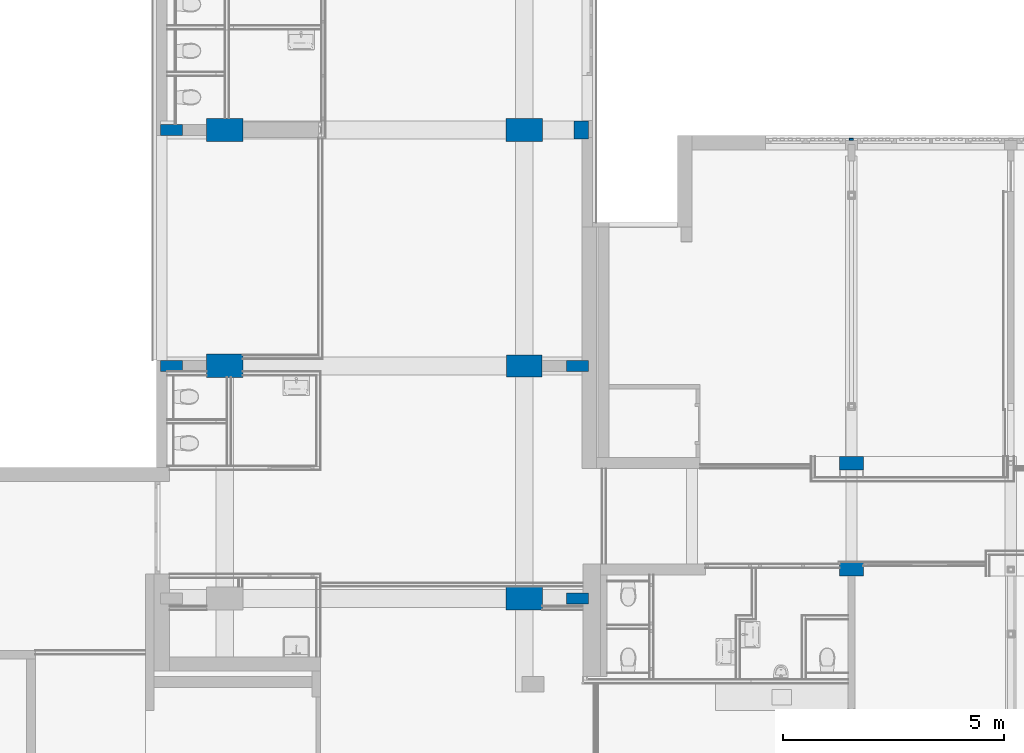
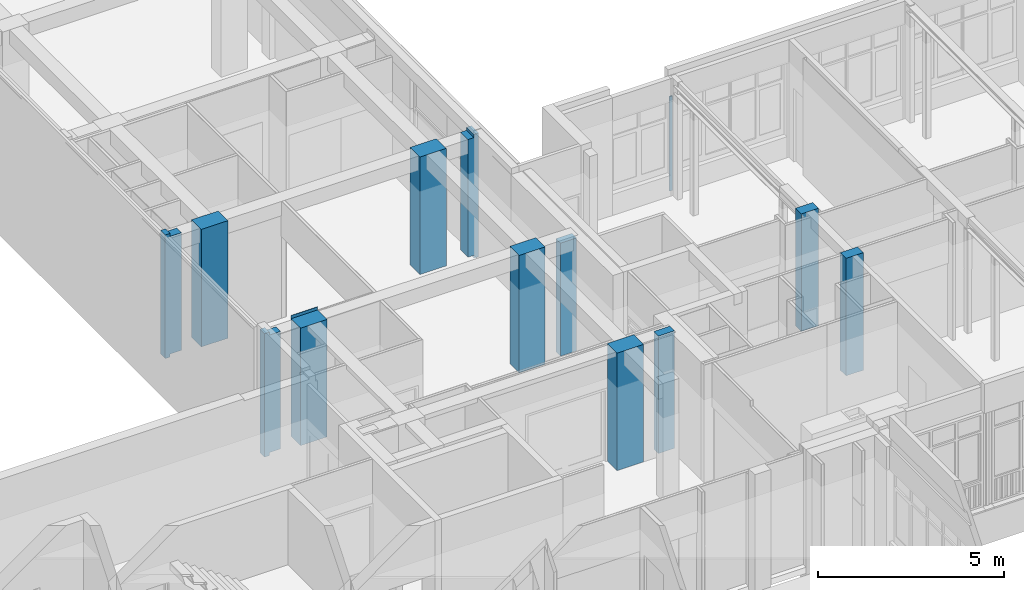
# One storey, part 50 of 135: 13 columns.
"""IFC2X3 building model written with IfcOpenShell, lengths in millimetres."""

from ifc_helpers import new_model, entity, si_unit, converted_unit, derived_unit, money_unit, direction, frame, origin_with_axes, place, context, subcontext, project, spatial, faceted_brep, material, type_object, element, save


model = new_model("IFC2X3")

# Units and contexts
model_context = context("Model", 3, precision=0.01, world=origin_with_axes(), true_north=direction((0.0, 1.0)))
body_context = subcontext(model_context, "Body", "Model", "MODEL_VIEW")
ifc_project = project(units=[si_unit("LENGTHUNIT", "METRE", prefix="MILLI"), si_unit("AREAUNIT", "SQUARE_METRE"), si_unit("VOLUMEUNIT", "CUBIC_METRE"), converted_unit("PLANEANGLEUNIT", "DEGREE", entity("IfcPlaneAngleMeasure", 0.0174532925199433), si_unit("PLANEANGLEUNIT", "RADIAN"), dimensions=[0, 0, 0, 0, 0, 0, 0]), money_unit("EUR"), converted_unit("TIMEUNIT", "Year", entity("IfcTimeMeasure", 31557600.0), si_unit("TIMEUNIT", "SECOND"), dimensions=[0, 0, 1, 0, 0, 0, 0]), si_unit("MASSUNIT", "GRAM", prefix="KILO"), si_unit("THERMODYNAMICTEMPERATUREUNIT", "DEGREE_CELSIUS"), si_unit("LUMINOUSINTENSITYUNIT", "LUMEN"), si_unit("ENERGYUNIT", "JOULE", prefix="MEGA"), derived_unit("THERMALCONDUCTANCEUNIT", [(si_unit("POWERUNIT", "WATT"), 1), (si_unit("LENGTHUNIT", "METRE"), -1), (si_unit("THERMODYNAMICTEMPERATUREUNIT", "KELVIN"), -1)]), derived_unit("SPECIFICHEATCAPACITYUNIT", [(si_unit("ENERGYUNIT", "JOULE"), 1), (si_unit("MASSUNIT", "GRAM", prefix="KILO"), -1), (si_unit("THERMODYNAMICTEMPERATUREUNIT", "KELVIN"), -1)]), derived_unit("MASSDENSITYUNIT", [(si_unit("MASSUNIT", "GRAM", prefix="KILO"), 1), (si_unit("VOLUMEUNIT", "CUBIC_METRE"), -1)])], contexts=[model_context])

# Site, building, storey
site_placement = place(None, origin_with_axes())
site = spatial("IfcSite", under=ifc_project, at=site_placement, Name="Site", CompositionType="ELEMENT")
building_placement = place(site_placement, origin_with_axes())
building = spatial("IfcBuilding", under=site, at=building_placement, Name="Naam gebouw", CompositionType="ELEMENT")
storey_placement = place(building_placement, origin_with_axes())
storey = spatial("IfcBuildingStorey", under=building, at=storey_placement, Name="Begane grond N", CompositionType="ELEMENT", Elevation=0.0)

# Columns
ifc_material_1 = material(Name="ALG - CONSTRUCTIEF KOLOM")
column_type_1 = type_object("IfcColumnType", Name="ALG - CONSTRUCTIEF KOLOM 540 x 310", PredefinedType="COLUMN")
for number, where, z_axis, x_axis, name in (
    (1, (36000.0, 18025.91242510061, -100.0), (0.0, 0.0, 1.0), (1.0, 0.0, 0.0), "_Kolom-x"),
    (2, (36000.0, 20425.91242510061, -100.0), (0.0, 0.0, 1.0), (1.0, 0.0, 0.0), "_Kolom-x"),
):
    element("IfcColumn", number, at=place(storey_placement, frame(where, z_axis=z_axis, x_axis=x_axis)), inside=storey, type_object=column_type_1, material=ifc_material_1, Name=name, ObjectType="COLUMN", context=body_context, shape_type="Brep", body=[
        faceted_brep([(270.0000000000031, -155.0000000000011, 3950.0), (270.0000000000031, -155.0000000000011, 100.0), (270.0000000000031, 155.0000000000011, 100.0), (270.0000000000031, 155.0000000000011, 3950.0), (-270.0000000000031, -155.0000000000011, 3950.0), (-270.0000000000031, -155.0000000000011, 100.0), (-270.0000000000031, 155.0000000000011, 100.0), (-270.0000000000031, 155.0000000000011, 3950.0)], [[[0, 1, 2, 3]], [[4, 5, 1, 0]], [[5, 6, 2, 1]], [[3, 2, 6, 7]], [[4, 0, 3, 7]], [[7, 6, 5, 4]]]),
    ])
column_type_2 = type_object("IfcColumnType", Name="ALG - CONSTRUCTIEF KOLOM 525 x 820", PredefinedType="COLUMN")
column_1_placement = place(storey_placement, frame((21836.0, 22625.91242510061, -100.0), z_axis=(0.0, 0.0, 1.0), x_axis=(0.0, -1.0, 0.0)))
element("IfcColumn", 3, at=column_1_placement, inside=storey, type_object=column_type_2, material=ifc_material_1, Name="_Kolom-x", ObjectType="COLUMN", context=body_context, shape_type="Brep", body=[
    faceted_brep([(262.4999999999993, 410.0000000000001, 3950.0), (262.4999999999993, 410.0000000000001, 100.0), (-262.4999999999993, 410.0000000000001, 100.0), (-262.4999999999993, 410.0000000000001, 4050.000000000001), (-250.0000000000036, 410.0000000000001, 4050.000000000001), (-250.0, 410.0000000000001, 3950.0), (262.4999999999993, -410.0000000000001, 3950.0), (262.4999999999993, -410.0000000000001, 100.0), (-262.4999999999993, -410.0000000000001, 100.0), (-262.4999999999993, -410.0000000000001, 4050.000000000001), (-250.0000000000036, -410.0000000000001, 4050.000000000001), (-250.0, -410.0000000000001, 3950.0)], [[[0, 1, 2, 3, 4, 5]], [[6, 7, 1, 0]], [[7, 8, 2, 1]], [[3, 2, 8, 9]], [[9, 10, 4, 3]], [[11, 5, 4, 10]], [[6, 0, 5, 11]], [[9, 8, 7, 6, 11, 10]]]),
])
column_2_placement = place(storey_placement, frame((21836.0, 27955.91242510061, 0.0), z_axis=(0.0, 0.0, 1.0), x_axis=(0.0, -1.0, 0.0)))
element("IfcColumn", 4, at=column_2_placement, inside=storey, type_object=column_type_2, material=ifc_material_1, Name="_Kolom-x", ObjectType="COLUMN", context=body_context, shape_type="Brep", body=[
    faceted_brep([(-262.4999999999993, -410.0000000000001, 0.0), (-262.4999999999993, -410.0000000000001, 3850.0), (-262.4999999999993, 410.0000000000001, 3850.0), (-262.4999999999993, 410.0000000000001, 0.0), (262.5000004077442, -409.9999973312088, 3850.0), (200.0000161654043, -409.9999977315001, 3850.0), (262.4999999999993, -410.0000000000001, 0.0), (262.4999999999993, 410.0000000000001, 3850.0), (200.0000061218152, 409.9999994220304, 3850.0), (262.4999999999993, 410.0000000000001, 0.0)], [[[0, 1, 2, 3]], [[4, 5, 1, 0, 6]], [[7, 8, 2, 1, 5, 4]], [[2, 8, 7, 9, 3]], [[9, 6, 0, 3]], [[9, 7, 4, 6]]]),
])
for number, where, z_axis, x_axis, name in (
    (5, (28605.99999999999, 17365.91242510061, -100.0), (0.0, 0.0, 1.0), (0.0, -1.0, 0.0), "_Kolom-x"),
    (6, (28605.99999999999, 27955.91242510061, -100.0), (0.0, 0.0, 1.0), (0.0, -1.0, 0.0), "_Kolom-x"),
):
    element("IfcColumn", number, at=place(storey_placement, frame(where, z_axis=z_axis, x_axis=x_axis)), inside=storey, type_object=column_type_2, material=ifc_material_1, Name=name, ObjectType="COLUMN", context=body_context, shape_type="Brep", body=[
        faceted_brep([(262.4999999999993, 410.0000000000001, 3950.0), (262.4999999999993, 410.0000000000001, 100.0), (-262.4999999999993, 410.0000000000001, 100.0), (-262.4999999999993, 410.0000000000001, 3950.0), (262.4999999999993, -410.0000000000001, 3950.0), (262.4999999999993, -410.0000000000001, 100.0), (-262.4999999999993, -410.0000000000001, 100.0), (-262.4999999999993, -410.0000000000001, 3950.0)], [[[0, 1, 2, 3]], [[4, 5, 1, 0]], [[5, 6, 2, 1]], [[3, 2, 6, 7]], [[4, 0, 3, 7]], [[7, 6, 5, 4]]]),
    ])
column_type_3 = type_object("IfcColumnType", Name="ALG - CONSTRUCTIEF KOLOM 500 x 800", PredefinedType="COLUMN")
column_3_placement = place(storey_placement, frame((28605.99999999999, 22625.91242510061, -100.0), z_axis=(0.0, 0.0, 1.0), x_axis=(0.0, -1.0, 0.0)))
element("IfcColumn", 7, at=column_3_placement, inside=storey, type_object=column_type_3, material=ifc_material_1, Name="_Kolom-x", ObjectType="COLUMN", context=body_context, shape_type="Brep", body=[
    faceted_brep([(250.0, 399.9999999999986, 3950.0), (250.0, 399.9999999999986, 100.0), (-250.0, 399.9999999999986, 100.0), (-250.0, 399.9999999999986, 3950.0), (250.0, -399.9999999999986, 3950.0), (250.0, -399.9999999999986, 100.0), (-250.0, -399.9999999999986, 100.0), (-250.0, -399.9999999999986, 3950.0)], [[[0, 1, 2, 3]], [[4, 5, 1, 0]], [[5, 6, 2, 1]], [[3, 2, 6, 7]], [[4, 0, 3, 7]], [[7, 6, 5, 4]]]),
])
column_type_4 = type_object("IfcColumnType", Name="ALG - CONSTRUCTIEF KOLOM 250 x 500", PredefinedType="COLUMN")
column_4_placement = place(storey_placement, frame((20636.0, 27955.91242510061, -100.0), z_axis=(0.0, 0.0, 1.0), x_axis=(0.0, -1.0, 0.0)))
element("IfcColumn", 8, at=column_4_placement, inside=storey, type_object=column_type_4, material=ifc_material_1, Name="_Kolom-x", ObjectType="COLUMN", context=body_context, shape_type="Brep", body=[
    faceted_brep([(125.0, 250.0, 3950.0), (125.0, 250.0, 100.0), (-125.0, 250.0, 100.0), (-125.0, 250.0, 3950.0), (125.0, -99.99999999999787, 0.0), (125.0, -100.0000000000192, 100.0), (125.0, -99.99999999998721, 3950.0), (125.0, -100.0000000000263, 4050.000000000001), (125.0, -250.0, 4050.000000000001), (125.0, -250.0, 0.0), (-125.0, -100.0000000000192, 100.0), (-125.0, -99.99999999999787, 0.0), (-125.0, -250.0, 0.0), (-125.0, -250.0, 4050.000000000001), (-125.0, -100.0000000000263, 4050.000000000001), (-125.0, -99.99999999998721, 3950.0)], [[[0, 1, 2, 3]], [[4, 5, 1, 0, 6, 7, 8, 9]], [[5, 10, 2, 1]], [[2, 10, 11, 12, 13, 14, 15, 3]], [[6, 0, 3, 15]], [[4, 11, 10, 5]], [[6, 15, 14, 7]], [[8, 7, 14, 13]], [[9, 8, 13, 12]], [[12, 11, 4, 9]]]),
])
column_5_placement = place(storey_placement, frame((20636.0, 22625.91242510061, -100.0), z_axis=(0.0, 0.0, 1.0), x_axis=(0.0, -1.0, 0.0)))
element("IfcColumn", 9, at=column_5_placement, inside=storey, type_object=column_type_4, material=ifc_material_1, Name="_Kolom-x", ObjectType="COLUMN", context=body_context, shape_type="Brep", body=[
    faceted_brep([(125.0, 250.0, 3950.0), (125.0, 250.0, 100.0), (-125.0, 250.0, 100.0), (-125.0, 250.0, 3950.0), (125.0, -99.99999999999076, 0.0), (125.0, -100.0000000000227, 100.0), (125.0, -99.99999999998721, 3950.0), (125.0, -99.99999999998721, 4050.000000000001), (125.0, -250.0, 4050.000000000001), (125.0, -250.0, 0.0), (-125.0, -100.0000000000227, 100.0), (-125.0, -99.99999999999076, 0.0), (-125.0, -250.0, 0.0), (-125.0, -250.0, 4050.000000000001), (-125.0, -99.99999999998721, 4050.000000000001), (-125.0, -99.99999999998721, 3950.0)], [[[0, 1, 2, 3]], [[4, 5, 1, 0, 6, 7, 8, 9]], [[5, 10, 2, 1]], [[2, 10, 11, 12, 13, 14, 15, 3]], [[6, 0, 3, 15]], [[4, 11, 10, 5]], [[6, 15, 14, 7]], [[8, 7, 14, 13]], [[9, 8, 13, 12]], [[12, 11, 4, 9]]]),
])
column_6_placement = place(storey_placement, frame((29805.99999999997, 22625.91242510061, 0.0), z_axis=(0.0, 0.0, 1.0), x_axis=(0.0, -1.0, 0.0)))
element("IfcColumn", 10, at=column_6_placement, inside=storey, type_object=column_type_4, material=ifc_material_1, Name="_Kolom-x", ObjectType="COLUMN", context=body_context, shape_type="Brep", body=[
    faceted_brep([(125.0, -250.0, 3699.999999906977), (-125.0, -250.0, 3699.999999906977), (-125.0, -250.0, 0.0), (125.0, -250.0, 0.0), (125.0, 250.0, 3699.999999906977), (-125.0, 250.0, 3699.999999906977), (-125.0, 250.0, 0.0), (125.0, 250.0, 0.0)], [[[0, 1, 2, 3]], [[4, 5, 1, 0]], [[1, 5, 6, 2]], [[7, 3, 2, 6]], [[4, 0, 3, 7]], [[5, 4, 7, 6]]]),
])
column_7_placement = place(storey_placement, frame((29805.99999999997, 17365.91242510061, -100.0), z_axis=(0.0, 0.0, 1.0), x_axis=(0.0, -1.0, 0.0)))
element("IfcColumn", 11, at=column_7_placement, inside=storey, type_object=column_type_4, material=ifc_material_1, Name="_Kolom-x", ObjectType="COLUMN", context=body_context, shape_type="Brep", body=[
    faceted_brep([(125.0, 250.0, 3950.0), (125.0, 250.0, 100.0), (-125.0, 250.0, 100.0), (-125.0, 250.0, 3950.0), (125.0, -250.0, 3950.0), (125.0, -250.0, 100.0), (-125.0, -250.0, 100.0), (-125.0, -250.0, 3950.0)], [[[0, 1, 2, 3]], [[4, 5, 1, 0]], [[5, 6, 2, 1]], [[3, 2, 6, 7]], [[4, 0, 3, 7]], [[7, 6, 5, 4]]]),
])
column_type_5 = type_object("IfcColumnType", Name="ALG - CONSTRUCTIEF KOLOM 400 x 330", PredefinedType="COLUMN")
column_8_placement = place(storey_placement, frame((29891.0, 27955.91242510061, -100.0), z_axis=(0.0, 0.0, 1.0), x_axis=(0.0, -1.0, 0.0)))
element("IfcColumn", 12, at=column_8_placement, inside=storey, type_object=column_type_5, material=ifc_material_1, Name="_Kolom-x", ObjectType="COLUMN", context=body_context, shape_type="Brep", body=[
    faceted_brep([(-199.9999999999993, 15.51433093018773, 0.0), (-199.9999999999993, 15.51433093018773, 100.0), (-199.9999999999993, -164.9999999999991, 100.0), (-199.9999999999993, -164.9999999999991, 3950.0), (-199.9999999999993, 14.99999999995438, 3950.0), (-199.9999999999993, 14.99999999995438, 4050.000000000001), (-199.9999999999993, 164.9999999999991, 4050.000000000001), (-199.9999999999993, 164.9999999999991, 0.0), (175.0000000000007, 14.99999999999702, 100.0), (175.0000000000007, 14.99999999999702, 0.0), (199.9999999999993, -164.9999999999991, 100.0), (199.9999999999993, 15.13034759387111, 100.0), (199.9999999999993, -164.9999999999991, 3950.0), (199.9999999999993, 15.13034759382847, 3950.0), (174.9999999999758, 14.99999999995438, 3950.0), (174.9999999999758, 14.99999999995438, 4050.000000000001), (199.9999999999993, 15.13034759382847, 4050.000000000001), (199.9999999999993, 164.9999999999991, 4050.000000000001), (199.9999999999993, 164.9999999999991, 0.0), (199.9999999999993, 15.13034759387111, 0.0)], [[[0, 1, 2, 3, 4, 5, 6, 7]], [[8, 1, 0, 9]], [[10, 2, 1, 8, 11]], [[3, 2, 10, 12]], [[3, 12, 13, 14, 4]], [[14, 15, 5, 4]], [[6, 5, 15, 16, 17]], [[6, 17, 18, 7]], [[19, 9, 0, 7, 18]], [[9, 19, 11, 8]], [[10, 11, 19, 18, 17, 16, 13, 12]], [[14, 13, 16, 15]]]),
])
ifc_material_2 = material(Name="Metaal - Staal C")
column_type_6 = type_object("IfcColumnType", Name="Metaal - Staal C 90 x 44", PredefinedType="COLUMN")
column_9_placement = place(storey_placement, frame((35999.99999999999, 27743.91242510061, 0.0), z_axis=(0.0, 0.0, 1.0), x_axis=(-1.0, 0.0, 0.0)))
element("IfcColumn", 13, at=column_9_placement, inside=storey, type_object=column_type_6, material=ifc_material_2, Name="_Kolom-x", ObjectType="COLUMN", context=body_context, shape_type="Brep", body=[
    faceted_brep([(-45.00000000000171, -21.99999999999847, 3090.000000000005), (-45.00000000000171, -21.99999999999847, 0.0), (45.00000000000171, -21.99999999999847, 0.0), (45.00000000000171, -21.99999999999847, 3090.000000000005), (-45.00000000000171, 21.99999999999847, 3090.000000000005), (-45.00000000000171, 21.99999999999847, 0.0), (45.00000000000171, 21.99999999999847, 0.0), (45.00000000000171, 21.99999999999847, 3090.000000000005)], [[[0, 1, 2, 3]], [[4, 5, 1, 0]], [[2, 1, 5, 6]], [[3, 2, 6, 7]], [[4, 0, 3, 7]], [[7, 6, 5, 4]]]),
])

save(model, "model.ifc")
